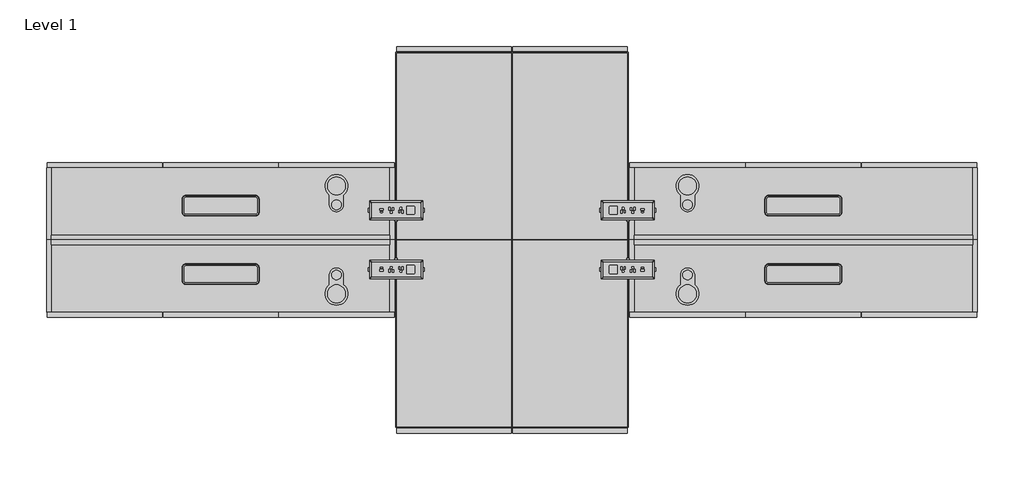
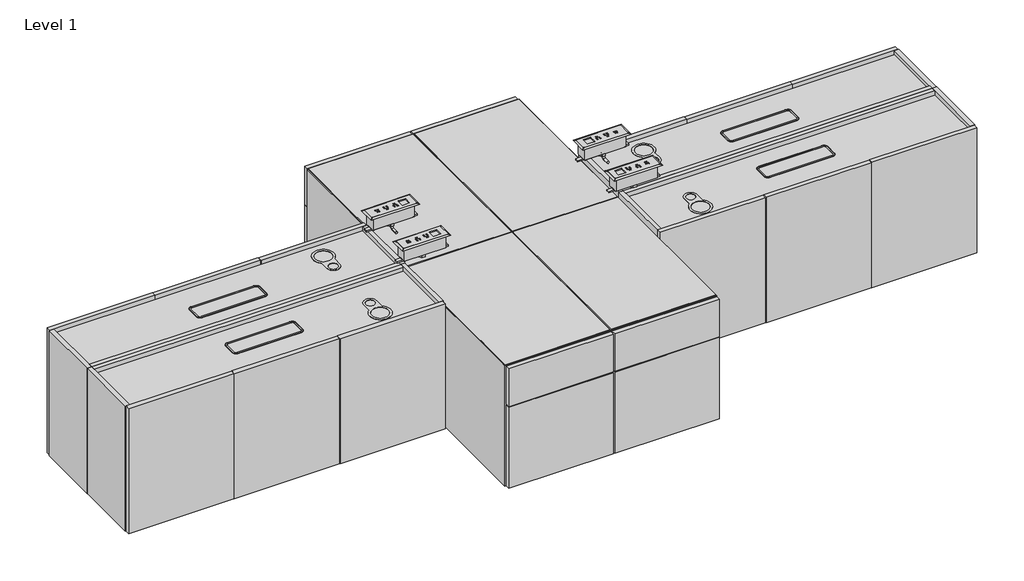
# One storey, incomplete: 12 furniture elements.
"""IFC4 building model written with IfcOpenShell, lengths in millimetres."""

from ifc_helpers import new_model, si_unit, origin, place, context, project, spatial, transform, mapped, element, save
from components import furniture_34fd393c, furniture_a89d6c0f, furniture_e8135a38, furniture_6e33beb1, in_surface_33791ff7, in_surface_6b24b240

model = new_model("IFC4")

# Units and contexts
model_context = context("Model", 3, world=origin())
ifc_project = project(units=[si_unit("LENGTHUNIT", "METRE", prefix="MILLI")], contexts=[model_context])

# Site, building, storey
site = spatial("IfcSite", under=ifc_project)
building = spatial("IfcBuilding", under=site)
storey = spatial("IfcBuildingStorey", under=building, Name="Level 1", Elevation=0.0)

# Furniture
placement = place(None, origin())
furniture_shape = furniture_34fd393c(model_context)
element("IfcFurniture", 1, ObjectType="Geiger_GeigerOneCasegoods_UtilityCabinetForUseWithCredenzaDeskAccepts1Leg : Vertical Veneer 54Wx 12Dx 22.5H", at=placement, inside=storey, context=model_context, shape_type="MappedRepresentation", body=[
    mapped(furniture_shape, transform((1812.9894134, 3130.1307853, 0.0), x_axis=(1.0, 0.0, 0.0), y_axis=(0.0, 1.0, 0.0), z_axis=(0.0, 0.0, 1.0))),
])
element("IfcFurniture", 2, ObjectType="Geiger_GeigerOneCasegoods_UtilityCabinetForUseWithCredenzaDeskAccepts1Leg : Vertical Veneer 54Wx 12Dx 22.5H", at=placement, inside=storey, context=model_context, shape_type="MappedRepresentation", body=[
    mapped(furniture_shape, transform((889.4364379, 3129.1307853, 0.0), x_axis=(-1.0, 0.0, 0.0), y_axis=(0.0, -1.0, 0.0), z_axis=(0.0, 0.0, 1.0))),
])
furniture_2_shape = furniture_a89d6c0f(model_context)
element("IfcFurniture", 3, ObjectType="Geiger_GeigerOneCasegoods_UtilityCabinetForUseWithCredenzaDeskAccepts1Leg : Vertical Veneer 54Wx 12Dx 22.5H", at=placement, inside=storey, context=model_context, shape_type="MappedRepresentation", body=[
    mapped(furniture_2_shape, transform((1812.9894134, 3129.1307853, 0.0), x_axis=(1.0, 0.0, 0.0), y_axis=(0.0, 1.0, 0.0), z_axis=(0.0, 0.0, 1.0))),
])
element("IfcFurniture", 4, ObjectType="Geiger_GeigerOneCasegoods_UtilityCabinetForUseWithCredenzaDeskAccepts1Leg : Vertical Veneer 54Wx 12Dx 22.5H", at=placement, inside=storey, context=model_context, shape_type="MappedRepresentation", body=[
    mapped(furniture_2_shape, transform((889.4364379, 3130.1307853, 0.0), x_axis=(-1.0, 0.0, 0.0), y_axis=(0.0, -1.0, 0.0), z_axis=(0.0, 0.0, 1.0))),
])
furniture_3_shape = furniture_e8135a38(model_context)
element("IfcFurniture", 5, ObjectType="Geiger_GeigerOneCasegoods_LowStorage1Box1File : Vertical Veneer 18Wx30Dx21.75H", at=placement, inside=storey, context=model_context, shape_type="MappedRepresentation", body=[
    mapped(furniture_3_shape, transform((1351.2129256, 3130.1307853, 0.0), x_axis=(1.0, 0.0, 0.0), y_axis=(0.0, 1.0, 0.0), z_axis=(0.0, 0.0, 1.0))),
])
element("IfcFurniture", 6, ObjectType="Geiger_GeigerOneCasegoods_LowStorage1Box1File : Vertical Veneer 18Wx30Dx21.75H", at=placement, inside=storey, context=model_context, shape_type="MappedRepresentation", body=[
    mapped(furniture_3_shape, transform((1351.2129256, 3129.1307853, 0.0), x_axis=(-1.0, 0.0, 0.0), y_axis=(0.0, -1.0, 0.0), z_axis=(0.0, 0.0, 1.0))),
])
furniture_4_shape = furniture_6e33beb1(model_context)
element("IfcFurniture", 7, ObjectType="Geiger_GeigerOneCasegoods_LowStorage1Box1File : Vertical Veneer 18Wx30Dx21.75H", at=placement, inside=storey, context=model_context, shape_type="MappedRepresentation", body=[
    mapped(furniture_4_shape, transform((1351.2129256, 3129.1307853, 0.0), x_axis=(1.0, 0.0, 0.0), y_axis=(0.0, 1.0, 0.0), z_axis=(0.0, 0.0, 1.0))),
])
element("IfcFurniture", 8, ObjectType="Geiger_GeigerOneCasegoods_LowStorage1Box1File : Vertical Veneer 18Wx30Dx21.75H", at=placement, inside=storey, context=model_context, shape_type="MappedRepresentation", body=[
    mapped(furniture_4_shape, transform((1351.2129256, 3130.1307853, 0.0), x_axis=(-1.0, 0.0, 0.0), y_axis=(0.0, -1.0, 0.0), z_axis=(0.0, 0.0, 1.0))),
])
in_surface_shape = in_surface_33791ff7(model_context)
element("IfcFurniture", 9, ObjectType="Geiger_GeigerOneCasegoods_PowerComponent2PowerOutlets1USBA1USBC : In Surface", at=placement, inside=storey, context=model_context, shape_type="MappedRepresentation", body=[
    mapped(in_surface_shape, transform((1807.833014, 3012.9038371, 765.6068), x_axis=(1.0, 0.0, 0.0), y_axis=(0.0, 1.0, 0.0), z_axis=(0.0, 0.0, 1.0))),
])
element("IfcFurniture", 10, ObjectType="Geiger_GeigerOneCasegoods_PowerComponent2PowerOutlets1USBA1USBC : In Surface", at=placement, inside=storey, context=model_context, shape_type="MappedRepresentation", body=[
    mapped(in_surface_shape, transform((894.5928373, 3246.3577335, 765.6068), x_axis=(-1.0, 0.0, 0.0), y_axis=(0.0, -1.0, 0.0), z_axis=(0.0, 0.0, 1.0))),
])
in_surface_2_shape = in_surface_6b24b240(model_context)
element("IfcFurniture", 11, ObjectType="Geiger_GeigerOneCasegoods_PowerComponent2PowerOutlets1USBA1USBC : In Surface", at=placement, inside=storey, context=model_context, shape_type="MappedRepresentation", body=[
    mapped(in_surface_2_shape, transform((1807.833014, 3246.3577335, 765.6068), x_axis=(1.0, 0.0, 0.0), y_axis=(0.0, 1.0, 0.0), z_axis=(0.0, 0.0, 1.0))),
])
element("IfcFurniture", 12, ObjectType="Geiger_GeigerOneCasegoods_PowerComponent2PowerOutlets1USBA1USBC : In Surface", at=placement, inside=storey, context=model_context, shape_type="MappedRepresentation", body=[
    mapped(in_surface_2_shape, transform((894.5928373, 3012.9038371, 765.6068), x_axis=(-1.0, 0.0, 0.0), y_axis=(0.0, -1.0, 0.0), z_axis=(0.0, 0.0, 1.0))),
])

save(model, "model.ifc")
